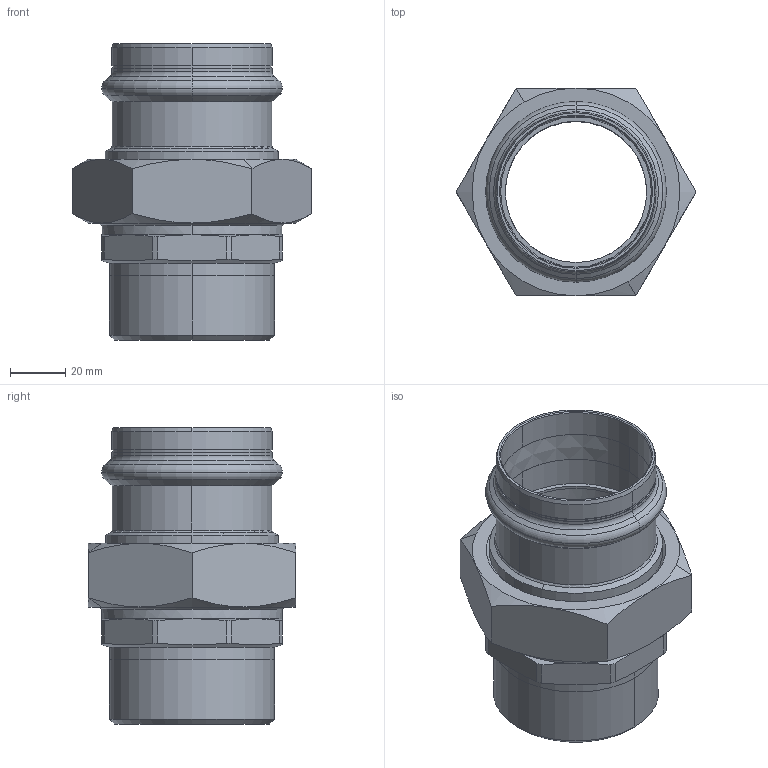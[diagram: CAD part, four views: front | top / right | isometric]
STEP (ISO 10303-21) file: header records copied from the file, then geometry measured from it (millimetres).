
FILE_DESCRIPTION(('CoCreate Modeling STEP Export'),'2;1');
FILE_NAME('8331GVW542.stp','2013-03-05T12:58:00',(''),(''),'CoCreate Modeling STEP processor for AP214 (Solid Model)','CoCreate Modeling 17.00A 17-Jun-2010 (C) Parametric Technology GmbH','');
FILE_SCHEMA(('AUTOMOTIVE_DESIGN { 1 0 10303 214 1 1 1 1 }'));
Length unit declared in the file: millimetre
Products named in the file (4): DRAAD; MOER; Wartelpuntstuk_C-PR_54x2.3.1; 8331GVW542
Assembly tree (3 placements, depth 2):
  8331GVW542
    Wartelpuntstuk_C-PR_54x2.3.1
    MOER
    DRAAD
Bounding box: 86.6 x 75 x 107 mm (x, y, z)
Volume: 116305.1 mm3; surface area: 56630.4 mm2
Topology: 3 solids, 3 shells, 150 faces, 356 edges, 216 vertices
Faces by surface type: cone 56, cylinder 48, plane 32, torus 14
Entity records: 5189 total; most frequent: CARTESIAN_POINT 2244, ORIENTED_EDGE 712, DIRECTION 418, EDGE_CURVE 356, VERTEX_POINT 216, EDGE_LOOP 160, AXIS2_PLACEMENT_3D 156, FACE_OUTER_BOUND 150
